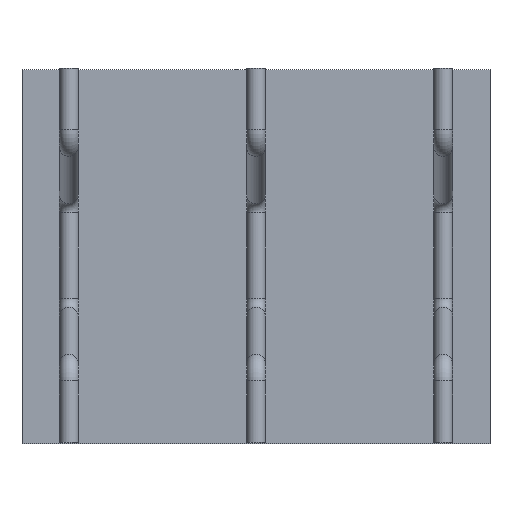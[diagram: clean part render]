
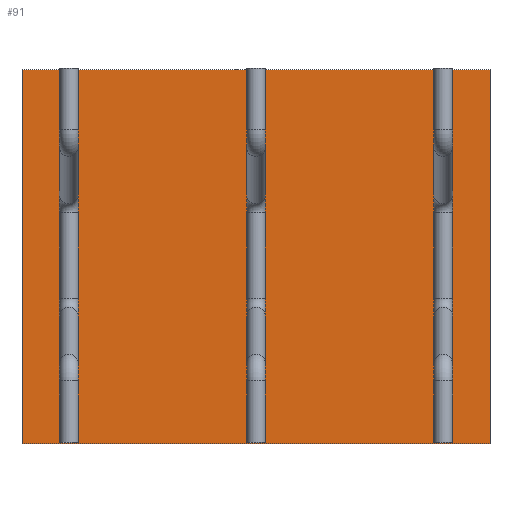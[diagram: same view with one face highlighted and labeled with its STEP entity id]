
A CAD part, top view. The second image highlights one B-rep face of the part: STEP entity #91.
In plain terms, the highlighted planar face has unit normal (0, 0, 1).
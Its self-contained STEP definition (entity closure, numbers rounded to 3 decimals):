
#52=CARTESIAN_POINT('Axis2P3D Location',(0.,0.,0.)) ;
#57=CARTESIAN_POINT('Line Origine',(0.,500.,0.)) ;
#61=CARTESIAN_POINT('Vertex',(625.,500.,0.)) ;
#63=CARTESIAN_POINT('Vertex',(-625.,500.,0.)) ;
#66=CARTESIAN_POINT('Line Origine',(-625.,0.,0.)) ;
#70=CARTESIAN_POINT('Vertex',(-625.,-500.,0.)) ;
#73=CARTESIAN_POINT('Line Origine',(0.,-500.,0.)) ;
#77=CARTESIAN_POINT('Vertex',(625.,-500.,0.)) ;
#80=CARTESIAN_POINT('Line Origine',(625.,0.,0.)) ;
#53=DIRECTION('Axis2P3D Direction',(0.,0.,1.)) ;
#54=DIRECTION('Axis2P3D XDirection',(1.,0.,0.)) ;
#58=DIRECTION('Vector Direction',(1.,0.,0.)) ;
#67=DIRECTION('Vector Direction',(0.,1.,0.)) ;
#74=DIRECTION('Vector Direction',(-1.,0.,0.)) ;
#81=DIRECTION('Vector Direction',(0.,-1.,0.)) ;
#55=AXIS2_PLACEMENT_3D('Plane Axis2P3D',#52,#53,#54) ;
#86=ORIENTED_EDGE('',*,*,#65,.T.) ;
#87=ORIENTED_EDGE('',*,*,#72,.T.) ;
#88=ORIENTED_EDGE('',*,*,#79,.T.) ;
#89=ORIENTED_EDGE('',*,*,#84,.T.) ;
#59=VECTOR('Line Direction',#58,1.) ;
#68=VECTOR('Line Direction',#67,1.) ;
#75=VECTOR('Line Direction',#74,1.) ;
#82=VECTOR('Line Direction',#81,1.) ;
#91=ADVANCED_FACE('Fill.1',(#90),#56,.T.) ;
#65=EDGE_CURVE('',#62,#64,#60,.F.) ;
#72=EDGE_CURVE('',#64,#71,#69,.F.) ;
#79=EDGE_CURVE('',#71,#78,#76,.F.) ;
#84=EDGE_CURVE('',#78,#62,#83,.F.) ;
#85=EDGE_LOOP('',(#86,#87,#88,#89)) ;
#90=FACE_OUTER_BOUND('',#85,.T.) ;
#60=LINE('Line',#57,#59) ;
#69=LINE('Line',#66,#68) ;
#76=LINE('Line',#73,#75) ;
#83=LINE('Line',#80,#82) ;
#56=PLANE('',#55) ;
#62=VERTEX_POINT('',#61) ;
#64=VERTEX_POINT('',#63) ;
#71=VERTEX_POINT('',#70) ;
#78=VERTEX_POINT('',#77) ;
